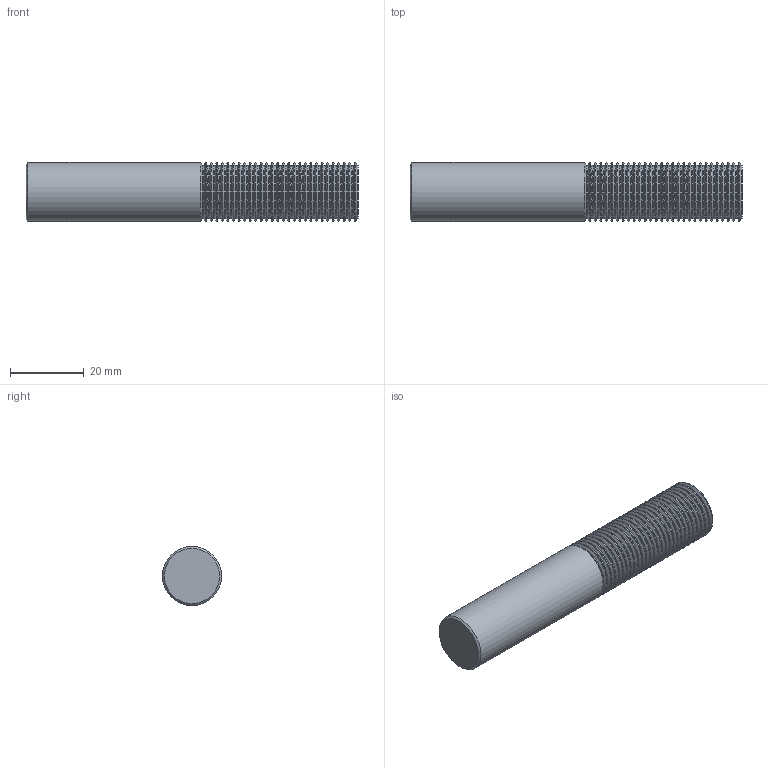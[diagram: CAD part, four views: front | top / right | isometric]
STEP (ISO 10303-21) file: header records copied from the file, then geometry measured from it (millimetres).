
FILE_DESCRIPTION(/* description */ (''),/* implementation_level */ '2;1');
FILE_NAME(/* name */ '00031455-TDM',/* time_stamp */ '2024-02-13T10:47:34+01:00',/* author */ (''),/* organization */ (''),/* preprocessor_version */ 'ST-DEVELOPER v16.5',/* originating_system */ 'HiCAD 2017 2201.0 Build 268',/* authorisation */ '');
FILE_SCHEMA (('AUTOMOTIVE_DESIGN { 1 0 10303 214 1 1 1 1 }'));
Length unit declared in the file: millimetre
Products named in the file (3): Root; ROTATIONSTEIL_1
Assembly tree (2 placements, depth 3):
  Root
    ROTATIONSTEIL_1
      ROTATIONSTEIL_1
Bounding box: 90 x 16 x 16 mm (x, y, z)
Volume: 17051.2 mm3; surface area: 6261.9 mm2
Topology: 2 solids, 2 shells, 178 faces, 352 edges, 178 vertices
Faces by surface type: cylinder 59, cone 58, torus 57, plane 4
Full cylindrical faces by diameter (mm): 14.344 x30, 15.95 x28, 16 x1
Entity records: 5364 total; most frequent: DIRECTION 716, CARTESIAN_POINT 534, AXIS2_PLACEMENT_3D 358, PRESENTATION_STYLE_ASSIGNMENT 354, COLOUR_RGB 354, DRAUGHTING_PRE_DEFINED_CURVE_FONT 352, CURVE_STYLE 352, OVER_RIDING_STYLED_ITEM 352
